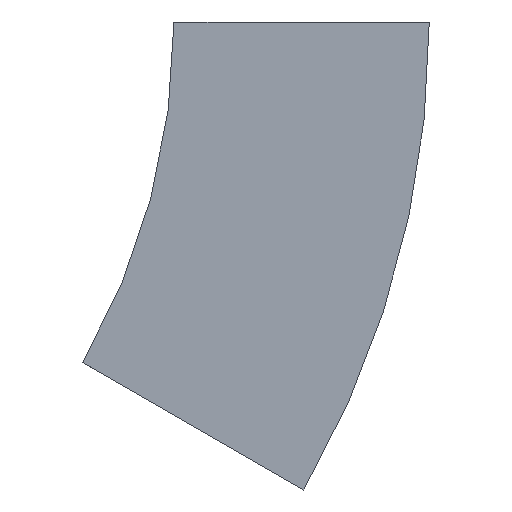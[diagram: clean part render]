
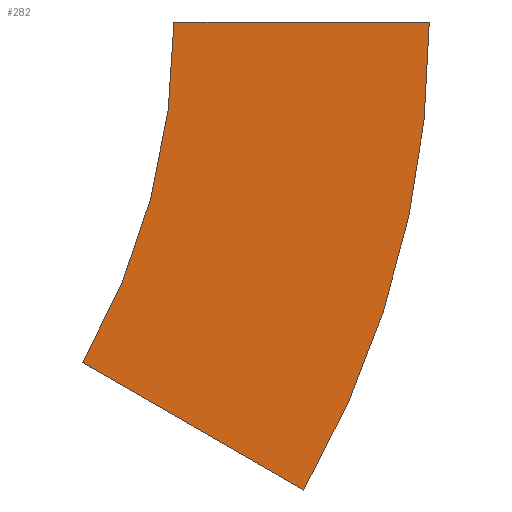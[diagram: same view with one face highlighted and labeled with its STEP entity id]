
A CAD part, left-side view. The second image highlights one B-rep face of the part: STEP entity #282.
In plain terms, the highlighted planar face has unit normal (-1, 0, 0) as drawn and (1, 0, 0) by its records, which use the part's own axes.
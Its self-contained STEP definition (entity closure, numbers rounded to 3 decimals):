
#26 = CARTESIAN_POINT ( 'NONE',  ( 0., 300., 0. ) ) ;
#40 = EDGE_LOOP ( 'NONE', ( #113, #347, #455, #189 ) ) ;
#48 = EDGE_CURVE ( 'NONE', #558, #51, #359, .T. ) ;
#51 = VERTEX_POINT ( 'NONE', #559 ) ;
#57 = VERTEX_POINT ( 'NONE', #309 ) ;
#64 = DIRECTION ( 'NONE',  ( -1., 0., 0. ) ) ;
#68 = VECTOR ( 'NONE', #435, 1000. ) ;
#71 = PLANE ( 'NONE',  #447 ) ;
#99 = DIRECTION ( 'NONE',  ( 1., 0., 0. ) ) ;
#113 = ORIENTED_EDGE ( 'NONE', *, *, #156, .F. ) ;
#147 = CARTESIAN_POINT ( 'NONE',  ( 0., 300., 0. ) ) ;
#156 = EDGE_CURVE ( 'NONE', #540, #51, #499, .T. ) ;
#188 = CARTESIAN_POINT ( 'NONE',  ( 0., 0., 0. ) ) ;
#189 = ORIENTED_EDGE ( 'NONE', *, *, #48, .T. ) ;
#196 = LINE ( 'NONE', #330, #323 ) ;
#279 = AXIS2_PLACEMENT_3D ( 'NONE', #147, #99, #329 ) ;
#282 = ADVANCED_FACE ( 'NONE', ( #471 ), #71, .F. ) ;
#302 = EDGE_CURVE ( 'NONE', #57, #558, #313, .T. ) ;
#309 = CARTESIAN_POINT ( 'NONE',  ( 0., -112.5, 0. ) ) ;
#313 = CIRCLE ( 'NONE', #356, 412.5 ) ;
#323 = VECTOR ( 'NONE', #459, 1000. ) ;
#329 = DIRECTION ( 'NONE',  ( 0., -1., 0. ) ) ;
#330 = CARTESIAN_POINT ( 'NONE',  ( 0., -112.5, 0. ) ) ;
#347 = ORIENTED_EDGE ( 'NONE', *, *, #430, .F. ) ;
#349 = CARTESIAN_POINT ( 'NONE',  ( 0., -112.5, 0. ) ) ;
#356 = AXIS2_PLACEMENT_3D ( 'NONE', #26, #438, #517 ) ;
#359 = LINE ( 'NONE', #556, #68 ) ;
#424 = DIRECTION ( 'NONE',  ( 0., 0., 1. ) ) ;
#430 = EDGE_CURVE ( 'NONE', #57, #540, #196, .T. ) ;
#435 = DIRECTION ( 'NONE',  ( 0., 0.866, 0.5 ) ) ;
#438 = DIRECTION ( 'NONE',  ( 1., 0., 0. ) ) ;
#447 = AXIS2_PLACEMENT_3D ( 'NONE', #349, #64, #424 ) ;
#455 = ORIENTED_EDGE ( 'NONE', *, *, #302, .T. ) ;
#459 = DIRECTION ( 'NONE',  ( 0., 1., 0. ) ) ;
#471 = FACE_OUTER_BOUND ( 'NONE', #40, .T. ) ;
#499 = CIRCLE ( 'NONE', #279, 300. ) ;
#517 = DIRECTION ( 'NONE',  ( 0., -1., 0. ) ) ;
#534 = CARTESIAN_POINT ( 'NONE',  ( 0., -57.235, -206.25 ) ) ;
#540 = VERTEX_POINT ( 'NONE', #188 ) ;
#556 = CARTESIAN_POINT ( 'NONE',  ( 0., -57.235, -206.25 ) ) ;
#558 = VERTEX_POINT ( 'NONE', #534 ) ;
#559 = CARTESIAN_POINT ( 'NONE',  ( 0., 40.192, -150. ) ) ;
